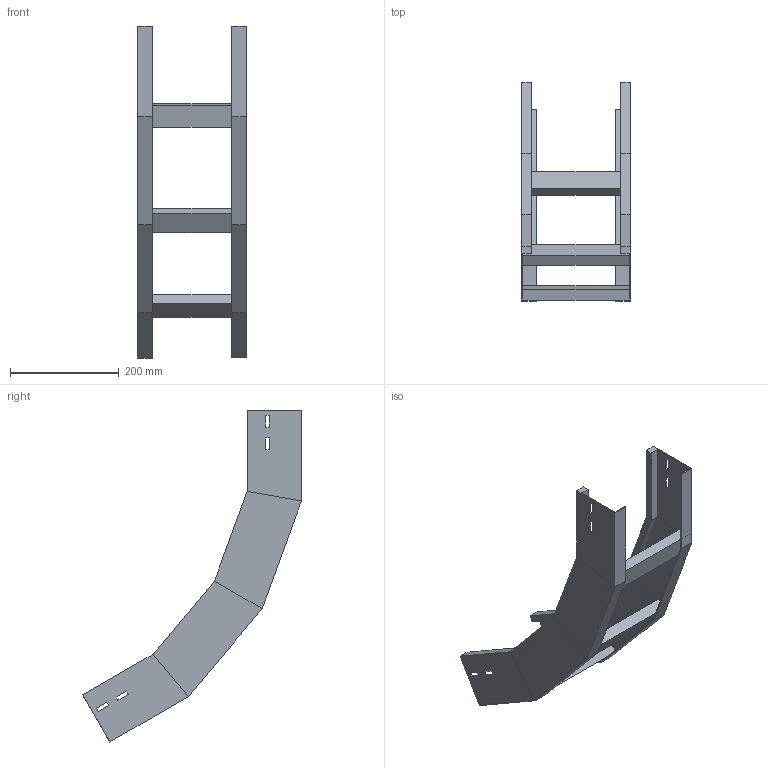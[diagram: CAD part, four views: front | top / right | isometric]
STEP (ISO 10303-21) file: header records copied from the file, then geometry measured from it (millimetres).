
FILE_DESCRIPTION (( 'STEP AP214' ), '1' );
FILE_NAME ('A2X40B5D200XX.step', '2025-03-20T10:12:00', ( '' ), ( '' ), 'SwSTEP 2.0', 'SolidWorks 2023', '' );
FILE_SCHEMA (( 'AUTOMOTIVE_DESIGN' ));
Length unit declared in the file: millimetre
Products named in the file (3): TRAVERSINO_200; LONGH.SALITA_60°_H100_R500; A2X40B5D200XX
Assembly tree (5 placements, depth 2):
  A2X40B5D200XX
    LONGH.SALITA_60°_H100_R500  x2
    TRAVERSINO_200  x3
Bounding box: 200 x 402.87 x 611.18 mm (x, y, z)
Volume: 1083550.8 mm3; surface area: 481191.1 mm2
Topology: 5 solids, 5 shells, 118 faces, 276 edges, 168 vertices
Faces by surface type: plane 118
Entity records: 1672 total; most frequent: CARTESIAN_POINT 276, ORIENTED_EDGE 264, DIRECTION 260, LINE 132, VECTOR 132, EDGE_CURVE 132, VERTEX_POINT 80, AXIS2_PLACEMENT_3D 64
